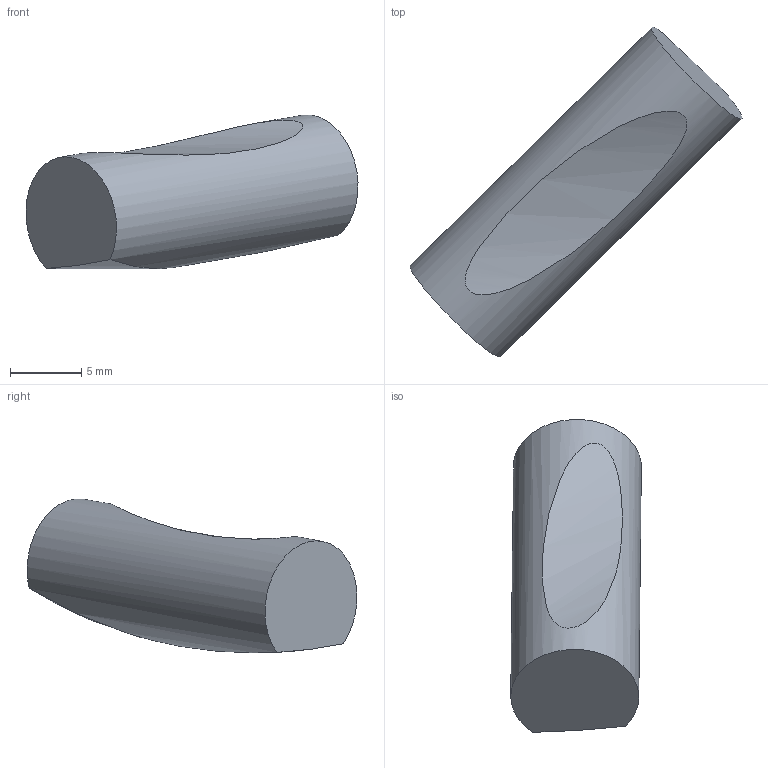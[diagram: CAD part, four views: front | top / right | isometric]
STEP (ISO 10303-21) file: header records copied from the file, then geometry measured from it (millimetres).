
FILE_DESCRIPTION(('Open CASCADE Model'),'2;1');
FILE_NAME('Open CASCADE Shape Model','2026-11-24T19:57:39',('Author'),( 'Open CASCADE'),'Open CASCADE STEP processor 7.8','Open CASCADE 7.8' ,'Unknown');
FILE_SCHEMA(('AUTOMOTIVE_DESIGN { 1 0 10303 214 1 1 1 1 }'));
Length unit declared in the file: millimetre
Products named in the file (1): Open CASCADE STEP translator 7.8 37
Bounding box: 23.32 x 23.16 x 10.81 mm (x, y, z)
Volume: 1448 mm3; surface area: 786.3 mm2
Topology: 1 solids, 1 shells, 6 faces, 11 edges, 8 vertices
Faces by surface type: cylinder 4, plane 2
Full cylindrical faces by diameter (mm): 9 x1
Entity records: 845 total; most frequent: CARTESIAN_POINT 645, B_SPLINE_CURVE_WITH_KNOTS 23, DIRECTION 22, ORIENTED_EDGE 22, PCURVE 22, DEFINITIONAL_REPRESENTATION 22, EDGE_CURVE 11, SURFACE_CURVE 11
